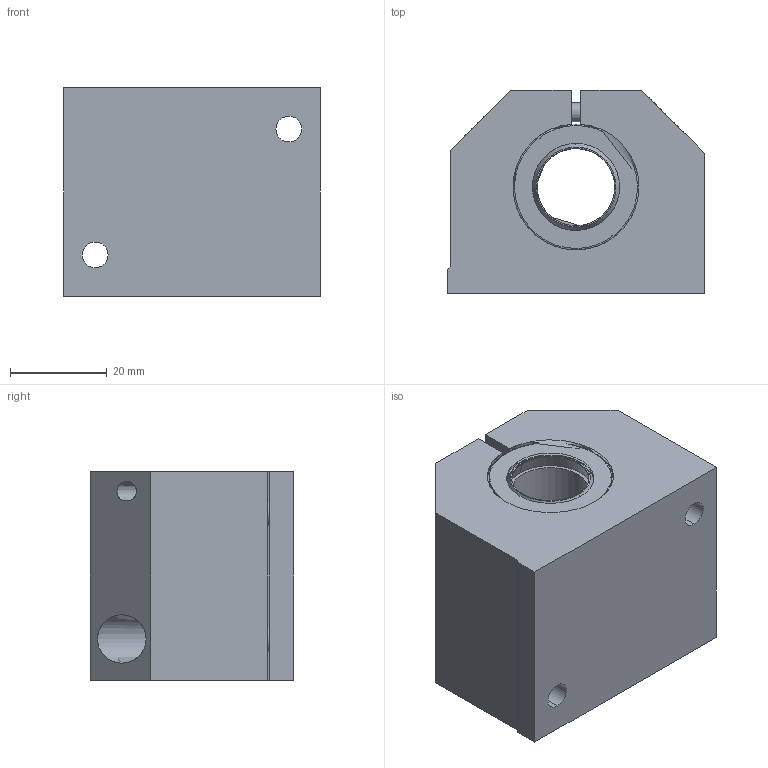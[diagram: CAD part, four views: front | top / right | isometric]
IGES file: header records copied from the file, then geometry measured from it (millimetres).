
Start section: 3D InterOp IGES (Version 21 0 1), Spatial Corp. Copyright (c) 1999-2007.
Global section: file name: SLS-16.igs; native system: Spatial Corp.; preprocessor: 3D InterOp GENERIC/IGES 3.0; author: Noname; organization: Noname; date: 20220309.161126; units: millimetre
Bounding box: 53 x 42 x 43 mm (x, y, z)
Surface area: 18429.7 mm2 (no closed solid volume)
Topology: 0 solids, 0 shells, 142 faces, 698 edges, 688 vertices
Faces by surface type: revolution 101, extrusion 41
